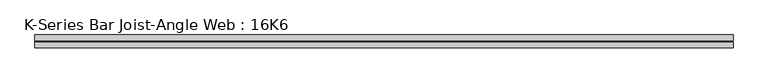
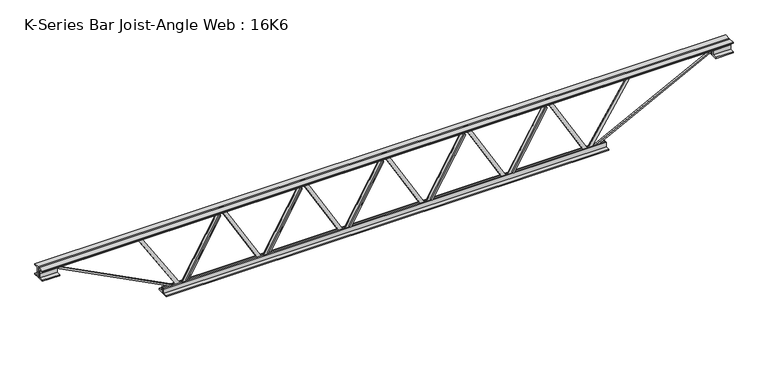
"""IFC4 building model written with IfcOpenShell, lengths in millimetres: beam geometry, K-Series Bar Joist-Angle Web : 16K6."""

from ifc_helpers import new_model, si_unit, frame, origin, place, context, project, spatial, polyline, outline, extrude, faceted_brep, source, transform, mapped, element, save


def k_series_bar_joist_angle_web_16k6_e2267e7a(model_context):
    return source(origin(), model_context, "Body", "SolidModel", [
        extrude(outline(polyline([(-4.75, 4.7625), (-4.75, 0.0), (-17.45, 0.0), (-17.45, 4.7625), (-4.75, 4.7625)])), frame((669.2368532, 0.0, -164.9), z_axis=(-0.5021464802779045, 0.0, 0.8647825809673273), x_axis=(0.0, -1.0, 0.0)), (0.0, 0.0, 1.0), 381.3675336),
        extrude(outline(polyline([(-199.825, 701.35), (-180.775, 701.35), (-180.775, 700.4835225), (199.825, 479.4835225), (199.825, 461.3), (180.775, 461.3), (180.775, 468.5164775), (-199.825, 689.5164775), (-199.825, 701.35)])), frame((0.0, 0.0, 0.0), z_axis=(0.0, 1.0, 0.0), x_axis=(0.0, 0.0, 1.0)), (0.0, 0.0, 1.0), 4.75),
        faceted_brep([(233.95, 0.0, -180.775), (233.95, 0.0, -199.825), (233.95, -4.75, -199.825), (233.95, -4.75, -180.775), (234.8164775, 0.0, -180.775), (455.8164775, 0.0, 199.825), (474.0, 0.0, 199.825), (474.0, 0.0, 180.775), (466.7835225, 0.0, 180.775), (245.7835225, 0.0, -199.825), (245.7835225, -4.75, -199.825), (266.0631468, -4.75, -164.9), (261.9446198, -4.75, -162.5085274), (453.4469845, -4.75, 167.2914726), (457.5655115, -4.75, 164.9), (466.7835225, -4.75, 180.775), (474.0, -4.75, 180.775), (474.0, -4.75, 199.825), (455.8164775, -4.75, 199.825), (234.8164775, -4.75, -180.775), (457.5655115, -17.4625, 164.9), (266.0631468, -17.4625, -164.9), (261.9446198, -17.4625, -162.5085274), (453.4469845, -17.4625, 167.2914726)], [[[0, 1, 2, 3]], [[1, 0, 4, 5, 6, 7, 8, 9]], [[2, 1, 9, 10]], [[3, 2, 10, 11, 12, 13, 14, 15, 16, 17, 18, 19]], [[0, 3, 19, 4]], [[9, 8, 15, 14, 20, 21, 11, 10]], [[5, 4, 19, 18]], [[7, 6, 17, 16]], [[8, 7, 16, 15]], [[6, 5, 18, 17]], [[21, 22, 12, 11]], [[20, 14, 13, 23]], [[22, 21, 20, 23]], [[12, 22, 23, 13]]]),
        extrude(outline(polyline([(-4.75, 4.7625), (-4.75, 0.0), (-17.45, 0.0), (-17.45, 4.7625), (-4.75, 4.7625)])), frame((201.5868532, 0.0, -164.9), z_axis=(-0.5021464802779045, 0.0, 0.8647825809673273), x_axis=(0.0, -1.0, 0.0)), (0.0, 0.0, 1.0), 381.3675336),
        extrude(outline(polyline([(-199.825, 233.7), (-180.775, 233.7), (-180.775, 232.8335225), (199.825, 11.8335225), (199.825, -6.35), (180.775, -6.35), (180.775, 0.8664775), (-199.825, 221.8664775), (-199.825, 233.7)])), frame((0.0, 0.0, 0.0), z_axis=(0.0, 1.0, 0.0), x_axis=(0.0, 0.0, 1.0)), (0.0, 0.0, 1.0), 4.75),
        faceted_brep([(-233.7, 0.0, -180.775), (-233.7, 0.0, -199.825), (-233.7, -4.75, -199.825), (-233.7, -4.75, -180.775), (-232.8335225, 0.0, -180.775), (-11.8335225, 0.0, 199.825), (6.35, 0.0, 199.825), (6.35, 0.0, 180.775), (-0.8664775, 0.0, 180.775), (-221.8664775, 0.0, -199.825), (-221.8664775, -4.75, -199.825), (-201.5868532, -4.75, -164.9), (-205.7053802, -4.75, -162.5085274), (-14.2030155, -4.75, 167.2914726), (-10.0844885, -4.75, 164.9), (-0.8664775, -4.75, 180.775), (6.35, -4.75, 180.775), (6.35, -4.75, 199.825), (-11.8335225, -4.75, 199.825), (-232.8335225, -4.75, -180.775), (-10.0844885, -17.4625, 164.9), (-201.5868532, -17.4625, -164.9), (-205.7053802, -17.4625, -162.5085274), (-14.2030155, -17.4625, 167.2914726)], [[[0, 1, 2, 3]], [[1, 0, 4, 5, 6, 7, 8, 9]], [[2, 1, 9, 10]], [[3, 2, 10, 11, 12, 13, 14, 15, 16, 17, 18, 19]], [[0, 3, 19, 4]], [[9, 8, 15, 14, 20, 21, 11, 10]], [[5, 4, 19, 18]], [[7, 6, 17, 16]], [[8, 7, 16, 15]], [[6, 5, 18, 17]], [[21, 22, 12, 11]], [[20, 14, 13, 23]], [[22, 21, 20, 23]], [[12, 22, 23, 13]]]),
        extrude(outline(polyline([(-4.75, 4.7625), (-4.75, 0.0), (-17.45, 0.0), (-17.45, 4.7625), (-4.75, 4.7625)])), frame((-266.0631468, 0.0, -164.9), z_axis=(-0.5021464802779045, 0.0, 0.8647825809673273), x_axis=(0.0, -1.0, 0.0)), (0.0, 0.0, 1.0), 381.3675336),
        extrude(outline(polyline([(-199.825, -233.95), (-180.775, -233.95), (-180.775, -234.8164775), (199.825, -455.8164775), (199.825, -474.0), (180.775, -474.0), (180.775, -466.7835225), (-199.825, -245.7835225), (-199.825, -233.95)])), frame((0.0, 0.0, 0.0), z_axis=(0.0, 1.0, 0.0), x_axis=(0.0, 0.0, 1.0)), (0.0, 0.0, 1.0), 4.75),
        faceted_brep([(-701.35, 0.0, -180.775), (-701.35, 0.0, -199.825), (-701.35, -4.75, -199.825), (-701.35, -4.75, -180.775), (-700.4835225, 0.0, -180.775), (-479.4835225, 0.0, 199.825), (-461.3, 0.0, 199.825), (-461.3, 0.0, 180.775), (-468.5164775, 0.0, 180.775), (-689.5164775, 0.0, -199.825), (-689.5164775, -4.75, -199.825), (-669.2368532, -4.75, -164.9), (-673.3553802, -4.75, -162.5085274), (-481.8530155, -4.75, 167.2914726), (-477.7344885, -4.75, 164.9), (-468.5164775, -4.75, 180.775), (-461.3, -4.75, 180.775), (-461.3, -4.75, 199.825), (-479.4835225, -4.75, 199.825), (-700.4835225, -4.75, -180.775), (-477.7344885, -17.4625, 164.9), (-669.2368532, -17.4625, -164.9), (-673.3553802, -17.4625, -162.5085274), (-481.8530155, -17.4625, 167.2914726)], [[[0, 1, 2, 3]], [[1, 0, 4, 5, 6, 7, 8, 9]], [[2, 1, 9, 10]], [[3, 2, 10, 11, 12, 13, 14, 15, 16, 17, 18, 19]], [[0, 3, 19, 4]], [[9, 8, 15, 14, 20, 21, 11, 10]], [[5, 4, 19, 18]], [[7, 6, 17, 16]], [[8, 7, 16, 15]], [[6, 5, 18, 17]], [[21, 22, 12, 11]], [[20, 14, 13, 23]], [[22, 21, 20, 23]], [[12, 22, 23, 13]]]),
        extrude(outline(polyline([(-4.75, 4.7625), (-4.75, 0.0), (-17.45, 0.0), (-17.45, 4.7625), (-4.75, 4.7625)])), frame((1136.8868532, 0.0, -164.9), z_axis=(-0.5021464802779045, 0.0, 0.8647825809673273), x_axis=(0.0, -1.0, 0.0)), (0.0, 0.0, 1.0), 381.3675336),
        extrude(outline(polyline([(-199.825, 1169.0), (-180.775, 1169.0), (-180.775, 1168.1335225), (199.825, 947.1335225), (199.825, 928.95), (180.775, 928.95), (180.775, 936.1664775), (-199.825, 1157.1664775), (-199.825, 1169.0)])), frame((0.0, 0.0, 0.0), z_axis=(0.0, 1.0, 0.0), x_axis=(0.0, 0.0, 1.0)), (0.0, 0.0, 1.0), 4.75),
        faceted_brep([(701.6, 0.0, -180.775), (701.6, 0.0, -199.825), (701.6, -4.75, -199.825), (701.6, -4.75, -180.775), (702.4664775, 0.0, -180.775), (923.4664775, 0.0, 199.825), (941.65, 0.0, 199.825), (941.65, 0.0, 180.775), (934.4335225, 0.0, 180.775), (713.4335225, 0.0, -199.825), (713.4335225, -4.75, -199.825), (733.7131468, -4.75, -164.9), (729.5946198, -4.75, -162.5085274), (921.0969845, -4.75, 167.2914726), (925.2155115, -4.75, 164.9), (934.4335225, -4.75, 180.775), (941.65, -4.75, 180.775), (941.65, -4.75, 199.825), (923.4664775, -4.75, 199.825), (702.4664775, -4.75, -180.775), (925.2155115, -17.4625, 164.9), (733.7131468, -17.4625, -164.9), (729.5946198, -17.4625, -162.5085274), (921.0969845, -17.4625, 167.2914726)], [[[0, 1, 2, 3]], [[1, 0, 4, 5, 6, 7, 8, 9]], [[2, 1, 9, 10]], [[3, 2, 10, 11, 12, 13, 14, 15, 16, 17, 18, 19]], [[0, 3, 19, 4]], [[9, 8, 15, 14, 20, 21, 11, 10]], [[5, 4, 19, 18]], [[7, 6, 17, 16]], [[8, 7, 16, 15]], [[6, 5, 18, 17]], [[21, 22, 12, 11]], [[20, 14, 13, 23]], [[22, 21, 20, 23]], [[12, 22, 23, 13]]]),
        extrude(outline(polyline([(-4.75, 4.7625), (-4.75, 0.0), (-17.45, 0.0), (-17.45, 4.7625), (-4.75, 4.7625)])), frame((-733.7131468, 0.0, -164.9), z_axis=(-0.5021464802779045, 0.0, 0.8647825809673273), x_axis=(0.0, -1.0, 0.0)), (0.0, 0.0, 1.0), 381.3675336),
        extrude(outline(polyline([(-199.825, -701.6), (-180.775, -701.6), (-180.775, -702.4664775), (199.825, -923.4664775), (199.825, -941.65), (180.775, -941.65), (180.775, -934.4335225), (-199.825, -713.4335225), (-199.825, -701.6)])), frame((0.0, 0.0, 0.0), z_axis=(0.0, 1.0, 0.0), x_axis=(0.0, 0.0, 1.0)), (0.0, 0.0, 1.0), 4.75),
        faceted_brep([(-1169.0, 0.0, -180.775), (-1169.0, 0.0, -199.825), (-1169.0, -4.75, -199.825), (-1169.0, -4.75, -180.775), (-1168.1335225, 0.0, -180.775), (-947.1335225, 0.0, 199.825), (-928.95, 0.0, 199.825), (-928.95, 0.0, 180.775), (-936.1664775, 0.0, 180.775), (-1157.1664775, 0.0, -199.825), (-1157.1664775, -4.75, -199.825), (-1136.8868532, -4.75, -164.9), (-1141.0053802, -4.75, -162.5085274), (-949.5030155, -4.75, 167.2914726), (-945.3844885, -4.75, 164.9), (-936.1664775, -4.75, 180.775), (-928.95, -4.75, 180.775), (-928.95, -4.75, 199.825), (-947.1335225, -4.75, 199.825), (-1168.1335225, -4.75, -180.775), (-945.3844885, -17.4625, 164.9), (-1136.8868532, -17.4625, -164.9), (-1141.0053802, -17.4625, -162.5085274), (-949.5030155, -17.4625, 167.2914726)], [[[0, 1, 2, 3]], [[1, 0, 4, 5, 6, 7, 8, 9]], [[2, 1, 9, 10]], [[3, 2, 10, 11, 12, 13, 14, 15, 16, 17, 18, 19]], [[0, 3, 19, 4]], [[9, 8, 15, 14, 20, 21, 11, 10]], [[5, 4, 19, 18]], [[7, 6, 17, 16]], [[8, 7, 16, 15]], [[6, 5, 18, 17]], [[21, 22, 12, 11]], [[20, 14, 13, 23]], [[22, 21, 20, 23]], [[12, 22, 23, 13]]]),
        extrude(outline(polyline([(4.75, 203.0), (36.75, 203.0), (36.75, 196.5), (11.25, 196.5), (11.25, 171.0), (4.75, 171.0), (4.75, 203.0)])), frame((-1981.0, 0.0, 0.0), z_axis=(1.0, 0.0, 0.0), x_axis=(0.0, 1.0, 0.0)), (0.0, 0.0, 1.0), 3962.0),
        extrude(outline(polyline([(-4.75, 203.0), (-4.75, 171.0), (-11.25, 171.0), (-11.25, 196.5), (-36.75, 196.5), (-36.75, 203.0), (-4.75, 203.0)])), frame((-1981.0, 0.0, 0.0), z_axis=(1.0, 0.0, 0.0), x_axis=(0.0, 1.0, 0.0)), (0.0, 0.0, 1.0), 3962.0),
        extrude(outline(polyline([(4.75, -203.0), (4.75, -171.0), (11.25, -171.0), (11.25, -196.5), (36.75, -196.5), (36.75, -203.0), (4.75, -203.0)])), frame((-1269.0, 0.0, 0.0), z_axis=(1.0, 0.0, 0.0), x_axis=(0.0, 1.0, 0.0)), (0.0, 0.0, 1.0), 2538.0),
        extrude(outline(polyline([(-4.75, -203.0), (-36.75, -203.0), (-36.75, -196.5), (-11.25, -196.5), (-11.25, -171.0), (-4.75, -171.0), (-4.75, -203.0)])), frame((-1269.0, 0.0, 0.0), z_axis=(1.0, 0.0, 0.0), x_axis=(0.0, 1.0, 0.0)), (0.0, 0.0, 1.0), 2538.0),
        extrude(outline(polyline([(4.75, 139.5), (4.75, 171.0), (11.25, 171.0), (11.25, 146.0), (36.75, 146.0), (36.75, 139.5), (4.75, 139.5)])), frame((1881.0, 0.0, 0.0), z_axis=(1.0, 0.0, 0.0), x_axis=(0.0, 1.0, 0.0)), (0.0, 0.0, 1.0), 100.0),
        extrude(outline(polyline([(-4.75, 139.5), (-36.75, 139.5), (-36.75, 146.0), (-11.25, 146.0), (-11.25, 171.0), (-4.75, 171.0), (-4.75, 139.5)])), frame((1881.0, 0.0, 0.0), z_axis=(1.0, 0.0, 0.0), x_axis=(0.0, 1.0, 0.0)), (0.0, 0.0, 1.0), 100.0),
        extrude(outline(polyline([(-4.75, 139.5), (-36.75, 139.5), (-36.75, 146.0), (-11.25, 146.0), (-11.25, 171.0), (-4.75, 171.0), (-4.75, 139.5)])), frame((-1981.0, 0.0, 0.0), z_axis=(1.0, 0.0, 0.0), x_axis=(0.0, 1.0, 0.0)), (0.0, 0.0, 1.0), 100.0),
        extrude(outline(polyline([(36.75, 139.5), (4.75, 139.5), (4.75, 171.0), (11.25, 171.0), (11.25, 146.0), (36.75, 146.0), (36.75, 139.5)])), frame((-1981.0, 0.0, 0.0), z_axis=(1.0, 0.0, 0.0), x_axis=(0.0, 1.0, 0.0)), (0.0, 0.0, 1.0), 100.0),
        extrude(outline(polyline([(193.9566712, -1422.6571429), (174.9066712, -1422.6571429), (174.9066712, -1414.9351467), (-201.4873691, -1176.640789), (-191.2973292, -1160.5452745), (193.9566712, -1404.4488562), (193.9566712, -1422.6571429)])), frame((0.0, 0.0, 0.0), z_axis=(0.0, 1.0, 0.0), x_axis=(0.0, 0.0, 1.0)), (0.0, 0.0, 1.0), 4.7625),
        extrude(outline(polyline([(-4.7625, -10.5646146), (-4.7625, 8.4853853), (0.0, 8.4853853), (0.0, -10.5646146), (-4.7625, -10.5646146)])), frame((1169.0, 0.0, -196.65), z_axis=(0.5364521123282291, 0.0, 0.8439307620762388), x_axis=(0.0, -1.0, 0.0)), (0.0, 0.0, 1.0), 435.6400033),
        extrude(outline(polyline([(-200.8705467, -1171.1793315), (-192.4294533, -1166.8206685), (175.75, -1879.8460208), (175.75, -1981.0), (166.25, -1981.0), (166.25, -1882.1539792), (-200.8705467, -1171.1793315)])), frame((0.0, -4.75, 0.0), z_axis=(0.0, 1.0, 0.0), x_axis=(0.0, 0.0, 1.0)), (0.0, 0.0, 1.0), 9.5),
        extrude(outline(polyline([(0.0, -9.5), (0.0, 0.0), (801.3179909, 0.0), (801.3179909, -9.5), (0.0, -9.5)])), frame((1883.1793315, -4.75, 166.7794533), z_axis=(-0.4588066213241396, 0.0, 0.888536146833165), x_axis=(-0.888536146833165, 0.0, -0.4588066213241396)), (0.0, 0.0, 1.0), 9.5),
    ])


if __name__ == "__main__":
    model = new_model("IFC4")
    model_context = context("Model", 3, world=origin())
    ifc_project = project(units=[si_unit("LENGTHUNIT", "METRE", prefix="MILLI")], contexts=[model_context])
    site = spatial("IfcSite", under=ifc_project)
    building = spatial("IfcBuilding", under=site)
    placement = place(None, origin())
    k_series_bar_joist_angle_web_16k6_shape = k_series_bar_joist_angle_web_16k6_e2267e7a(model_context)
    element("IfcBeam", 1, ObjectType="K-Series Bar Joist-Angle Web : 16K6", at=placement, inside=building, context=model_context, shape_type="MappedRepresentation", body=[
        mapped(k_series_bar_joist_angle_web_16k6_shape, transform((0.0, 0.0, 0.0), x_axis=(1.0, 0.0, 0.0), y_axis=(0.0, 1.0, 0.0), z_axis=(0.0, 0.0, 1.0))),
    ])
    save(model, "model.ifc")
